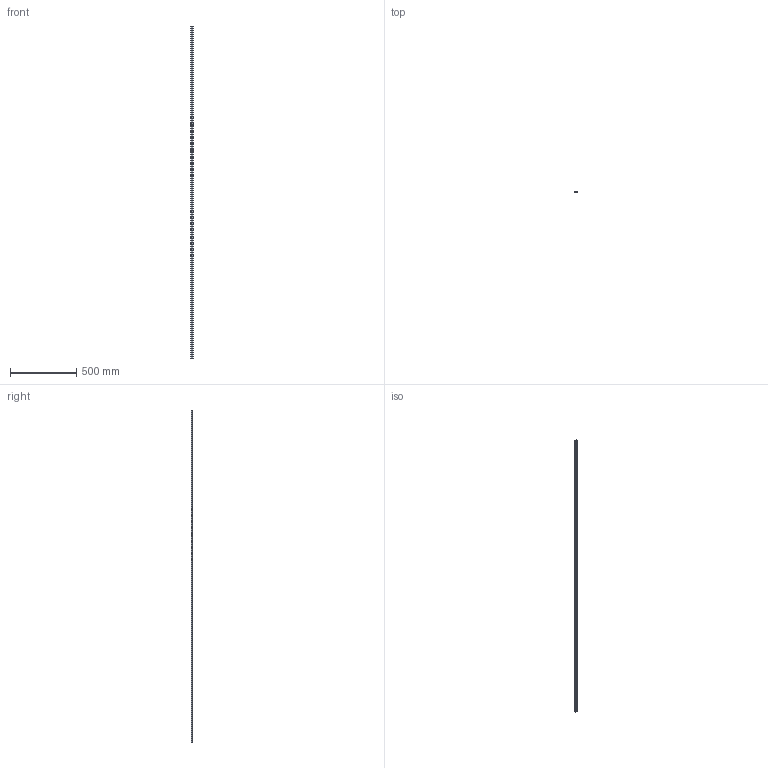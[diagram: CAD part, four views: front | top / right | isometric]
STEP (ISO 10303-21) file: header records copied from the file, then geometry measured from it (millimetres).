
FILE_DESCRIPTION (( 'STEP AP203' ), '1' );
FILE_NAME ('ChannelLine_S2_24.STEP', '2024-11-29T08:15:53', ( '' ), ( '' ), 'SwSTEP 2.0', 'SolidWorks 2023', '' );
FILE_SCHEMA (( 'CONFIG_CONTROL_DESIGN' ));
Length unit declared in the file: millimetre
Products named in the file (2): 2615901_26.159.97 L=2,5m; ChannelLine_S2_24
Assembly tree (1 placements, depth 2):
  ChannelLine_S2_24
    2615901_26.159.97 L=2,5m
Bounding box: 19.67 x 8.5 x 2500 mm (x, y, z)
Volume: 132890.5 mm3; surface area: 251316.2 mm2
Topology: 1 solids, 1 shells, 74 faces, 216 edges, 144 vertices
Faces by surface type: cylinder 42, plane 32
Entity records: 2680 total; most frequent: DIRECTION 456, CARTESIAN_POINT 438, ORIENTED_EDGE 432, EDGE_CURVE 216, AXIS2_PLACEMENT_3D 162, VERTEX_POINT 144, LINE 132, VECTOR 132
